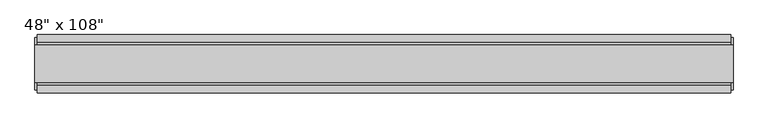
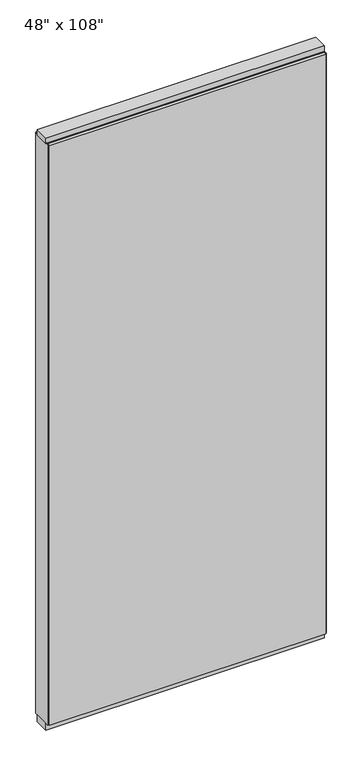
"""IFC4 building model written with IfcOpenShell, lengths in millimetres: furniture geometry."""

from ifc_helpers import new_model, si_unit, frame, origin, origin_with_axes, place, context, project, spatial, polyline, outline, extrude, source, transform, mapped, element, save


def furniture_9d4b2f2e(model_context):
    return source(origin(), model_context, "Body", "SweptSolid", [
        extrude(outline(polyline([(545.6264771, 46.2822784), (545.6264771, 33.5822784), (-665.6995229, 33.5822784), (-665.6995229, 46.2822784), (545.6264771, 46.2822784)])), frame((0.0, 0.0, 31.75), z_axis=(0.0, 0.0, 1.0), x_axis=(1.0, 0.0, 0.0)), (0.0, 0.0, 1.0), 2686.05),
        extrude(outline(polyline([(545.6264771, -55.3177216), (-665.6995229, -55.3177216), (-665.6995229, -42.6177216), (545.6264771, -42.6177216), (545.6264771, -55.3177216)])), frame((0.0, 0.0, 31.75), z_axis=(0.0, 0.0, 1.0), x_axis=(1.0, 0.0, 0.0)), (0.0, 0.0, 1.0), 2686.05),
        extrude(outline(polyline([(-42.6177216, 2681.478), (-42.6177216, 2717.8), (33.5822784, 2717.8), (33.5822784, 2681.478), (28.6292784, 2681.478), (28.6292784, 2676.525), (-37.6647216, 2676.525), (-37.6647216, 2681.478), (-42.6177216, 2681.478)])), frame((-665.6995229, 0.0, 0.0), z_axis=(1.0, 0.0, 0.0), x_axis=(0.0, 1.0, 0.0)), (0.0, 0.0, 1.0), 1211.326),
        extrude(outline(polyline([(549.5634771, 27.9942784), (549.5634771, -37.0297216), (-669.6365229, -37.0297216), (-669.6365229, 27.9942784), (549.5634771, 27.9942784)])), origin_with_axes(), (0.0, 0.0, 1.0), 31.75),
        extrude(outline(polyline([(-669.6365229, -37.0297216), (-669.6365229, 27.9942784), (549.5634771, 27.9942784), (549.5634771, -37.0297216), (-669.6365229, -37.0297216)])), frame((0.0, 0.0, 2717.8), z_axis=(0.0, 0.0, 1.0), x_axis=(1.0, 0.0, 0.0)), (0.0, 0.0, 1.0), 25.4),
        extrude(outline(polyline([(549.5634771, -50.3647216), (545.6264771, -50.3647216), (545.6264771, 41.3292784), (549.5634771, 41.3292784), (549.5634771, -50.3647216)])), frame((0.0, 0.0, 31.75), z_axis=(0.0, 0.0, 1.0), x_axis=(1.0, 0.0, 0.0)), (0.0, 0.0, 1.0), 2686.05),
        extrude(outline(polyline([(-669.6365229, -50.3647216), (-669.6365229, 41.3292784), (-665.6995229, 41.3292784), (-665.6995229, -50.3647216), (-669.6365229, -50.3647216)])), frame((0.0, 0.0, 31.75), z_axis=(0.0, 0.0, 1.0), x_axis=(1.0, 0.0, 0.0)), (0.0, 0.0, 1.0), 2686.05),
    ])


if __name__ == "__main__":
    model = new_model("IFC4")
    model_context = context("Model", 3, world=origin())
    ifc_project = project(units=[si_unit("LENGTHUNIT", "METRE", prefix="MILLI")], contexts=[model_context])
    site = spatial("IfcSite", under=ifc_project)
    building = spatial("IfcBuilding", under=site)
    placement = place(None, origin())
    furniture_shape = furniture_9d4b2f2e(model_context)
    element("IfcFurniture", 1, ObjectType="Haworth_Enclose_Wall_Solid : 48\" x 108\"", at=placement, inside=building, context=model_context, shape_type="MappedRepresentation", body=[
        mapped(furniture_shape, transform((0.0, 0.0, 0.0), x_axis=(1.0, 0.0, 0.0), y_axis=(0.0, 1.0, 0.0), z_axis=(0.0, 0.0, 1.0))),
    ])
    save(model, "model.ifc")
